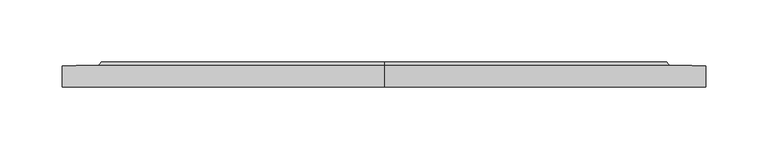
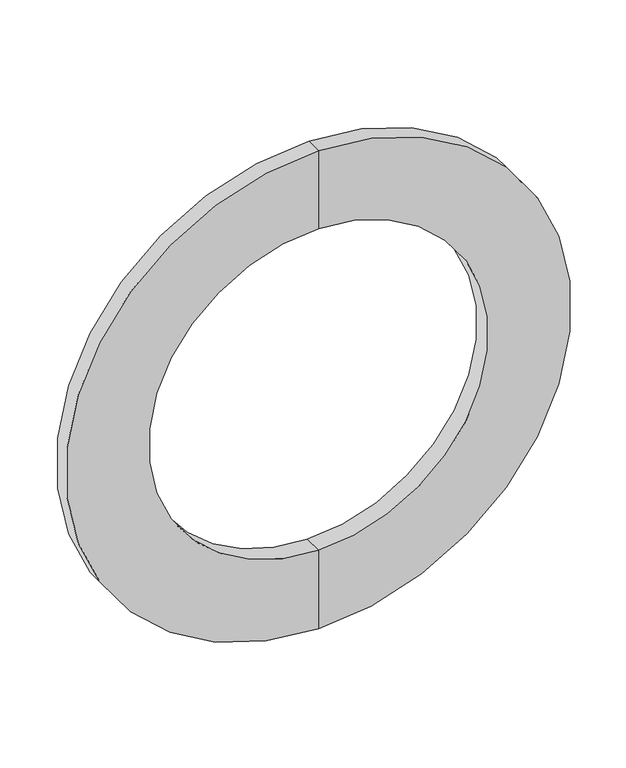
"""IFC4 building model written with IfcOpenShell, lengths in millimetres: pipe fitting geometry, Фланец : Фланец."""

from ifc_helpers import new_model, si_unit, frame, origin, place, context, project, spatial, polyline, circle_curve, source, transform, mapped, element, save
from ifc_brep_helpers import plane_surface, cylinder_surface, revolved_surface, advanced_brep


def pipe_fitting_ccbc936c(model_context):
    return source(origin(), model_context, "Body", "AdvancedBrep", [
        advanced_brep(
        [(0.0, 0.0, -260.0), (0.0, 0.0, 260.0), (0.0, 17.0, 260.0), (0.0, 17.0, -260.0), (0.0, 0.0, -175.0), (0.0, 0.0, 175.0), (0.0, 20.0, -175.0), (0.0, 20.0, 175.0), (0.0, 20.0, -228.5), (0.0, 20.0, 228.5), (0.0, 17.0, -231.0), (0.0, 17.0, 231.0)],
        [
            (0, 1, circle_curve(frame((0.0, 0.0, 0.0), z_axis=(0.0, 1.0, 0.0), x_axis=(0.0, 0.0, 1.0)), 260.0)),
            (1, 2),
            (2, 3, circle_curve(frame((0.0, 17.0, 0.0), z_axis=(0.0, -1.0, 0.0), x_axis=(0.0, 0.0, 1.0)), 260.0)),
            (3, 0),
            (1, 0, circle_curve(frame((0.0, 0.0, 0.0), z_axis=(0.0, 1.0, 0.0), x_axis=(0.0, 0.0, 1.0)), 260.0)),
            (3, 2, circle_curve(frame((0.0, 17.0, 0.0), z_axis=(0.0, -1.0, 0.0), x_axis=(0.0, 0.0, 1.0)), 260.0)),
            (4, 5, circle_curve(frame((0.0, 0.0, 0.0), z_axis=(0.0, 1.0, 0.0), x_axis=(0.0, 0.0, 1.0)), 175.0)),
            (5, 1),
            (0, 4),
            (5, 4, circle_curve(frame((0.0, 0.0, 0.0), z_axis=(0.0, 1.0, 0.0), x_axis=(0.0, 0.0, 1.0)), 175.0)),
            (6, 7, circle_curve(frame((0.0, 20.0, 0.0), z_axis=(0.0, 1.0, 0.0), x_axis=(0.0, 0.0, 1.0)), 175.0)),
            (7, 5),
            (4, 6),
            (7, 6, circle_curve(frame((0.0, 20.0, 0.0), z_axis=(0.0, 1.0, 0.0), x_axis=(0.0, 0.0, 1.0)), 175.0)),
            (8, 9, circle_curve(frame((0.0, 20.0, 0.0), z_axis=(0.0, 1.0, 0.0), x_axis=(0.0, 0.0, 1.0)), 228.5)),
            (9, 7),
            (6, 8),
            (9, 8, circle_curve(frame((0.0, 20.0, 0.0), z_axis=(0.0, 1.0, 0.0), x_axis=(0.0, 0.0, 1.0)), 228.5)),
            (10, 11, circle_curve(frame((0.0, 17.0, 0.0), z_axis=(0.0, 1.0, 0.0), x_axis=(0.0, 0.0, 1.0)), 231.0)),
            (11, 9),
            (8, 10),
            (11, 10, circle_curve(frame((0.0, 17.0, 0.0), z_axis=(0.0, 1.0, 0.0), x_axis=(0.0, 0.0, 1.0)), 231.0)),
            (2, 11),
            (10, 3),
        ],
        [
            cylinder_surface(frame((0.0, -60.0, 0.0), z_axis=(0.0, -1.0, 0.0), x_axis=(0.0, 0.0, 1.0)), 260.0),
            plane_surface(frame((0.0, 0.0, 0.0), z_axis=(0.0, -1.0, 0.0), x_axis=(0.0, 0.0, 1.0))),
            revolved_surface(polyline([(0.0, 0.0, 175.0), (0.0, 20.0, 175.0)]), (0.0, -60.0, 0.0), (0.0, -1.0, 0.0)),
            plane_surface(frame((0.0, 20.0, 0.0), z_axis=(0.0, 1.0, 0.0), x_axis=(0.0, 0.0, 1.0))),
            revolved_surface(polyline([(0.0, 20.0, 228.5), (0.0, 17.0, 231.0)]), (0.0, -60.0, 0.0), (0.0, -1.0, 0.0)),
            plane_surface(frame((0.0, 17.0, 0.0), z_axis=(0.0, 1.0, 0.0), x_axis=(0.0, 0.0, 1.0))),
        ],
        [
            (0, [[1, 2, 3, 4]]),
            (0, [[5, -4, 6, -2]]),
            (1, [[7, 8, -1, 9]]),
            (1, [[10, -9, -5, -8]]),
            (2, [[11, 12, -7, 13]]),
            (2, [[14, -13, -10, -12]]),
            (3, [[15, 16, -11, 17]]),
            (3, [[18, -17, -14, -16]]),
            (4, [[19, 20, -15, 21]]),
            (4, [[22, -21, -18, -20]]),
            (5, [[-3, 23, -19, 24]]),
            (5, [[-6, -24, -22, -23]]),
        ],
    ),
    ])


if __name__ == "__main__":
    model = new_model("IFC4")
    model_context = context("Model", 3, world=origin())
    ifc_project = project(units=[si_unit("LENGTHUNIT", "METRE", prefix="MILLI")], contexts=[model_context])
    site = spatial("IfcSite", under=ifc_project)
    building = spatial("IfcBuilding", under=site)
    placement = place(None, origin())
    pipe_fitting_shape = pipe_fitting_ccbc936c(model_context)
    element("IfcPipeFitting", 1, ObjectType="Фланец : Фланец", at=placement, inside=building, context=model_context, shape_type="MappedRepresentation", body=[
        mapped(pipe_fitting_shape, transform((0.0, 0.0, 0.0), x_axis=(1.0, 0.0, 0.0), y_axis=(0.0, 1.0, 0.0), z_axis=(0.0, 0.0, 1.0))),
    ])
    save(model, "model.ifc")
